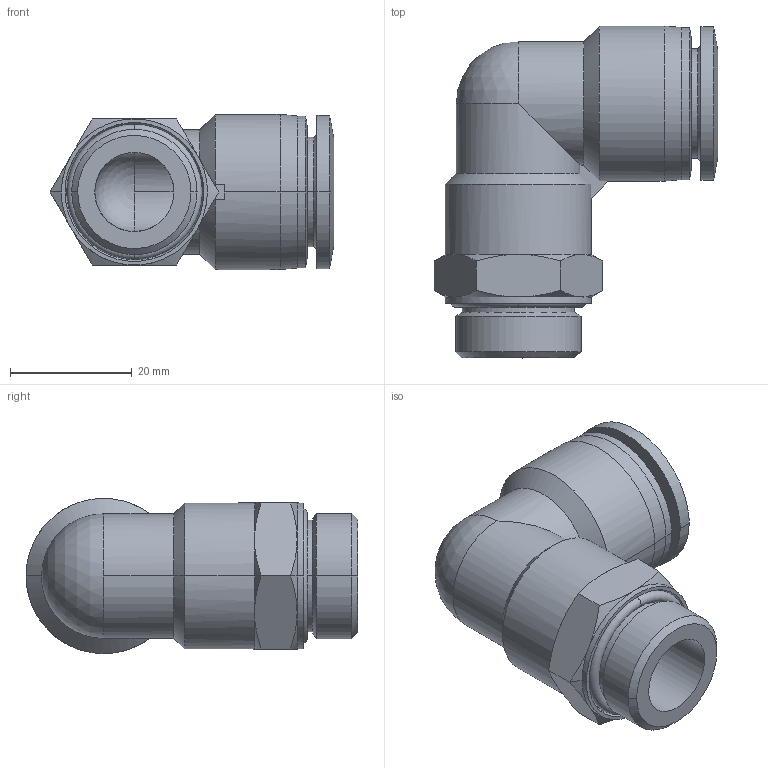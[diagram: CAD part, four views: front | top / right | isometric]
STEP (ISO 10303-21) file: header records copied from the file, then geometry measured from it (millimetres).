
FILE_DESCRIPTION (( 'STEP AP203' ), '1' );
FILE_NAME ('FL16-04.STEP', '2020-05-06T15:06:21', ( '' ), ( '' ), 'SwSTEP 2.0', 'SolidWorks 2019', '' );
FILE_SCHEMA (( 'CONFIG_CONTROL_DESIGN' ));
Length unit declared in the file: millimetre
Products named in the file (1): FL16-04
Bounding box: 46.66 x 54.55 x 25.5 mm (x, y, z)
Surface area: 10325.6 mm2 (no closed solid volume)
Topology: 0 solids, 4 shells, 84 faces, 200 edges, 121 vertices
Faces by surface type: cone 32, cylinder 28, plane 16, torus 6, sphere 2
Entity records: 4236 total; most frequent: CARTESIAN_POINT 2544, ORIENTED_EDGE 380, DIRECTION 226, EDGE_CURVE 198, B_SPLINE_CURVE_WITH_KNOTS 148, VERTEX_POINT 121, EDGE_LOOP 91, AXIS2_PLACEMENT_3D 91
